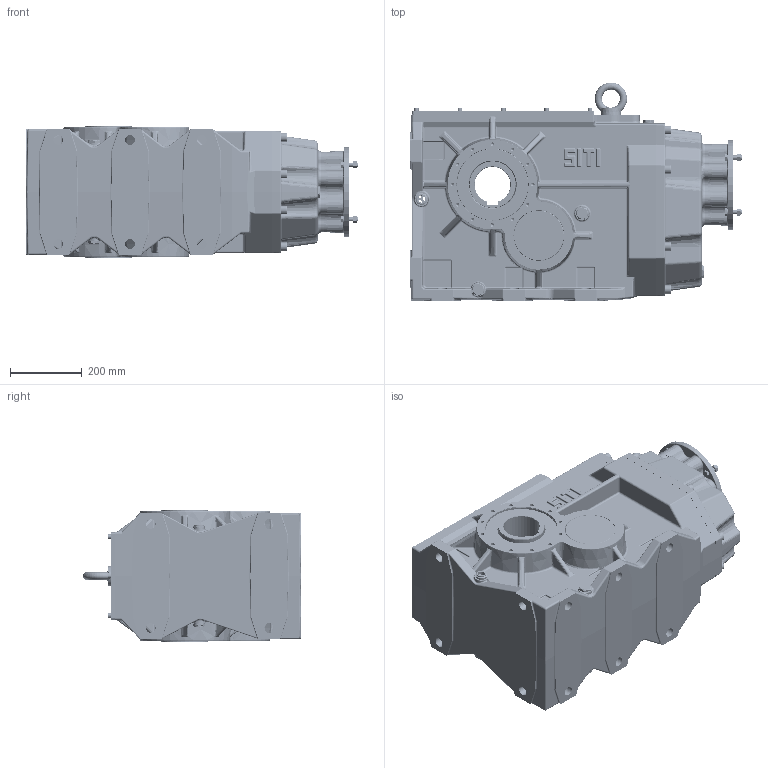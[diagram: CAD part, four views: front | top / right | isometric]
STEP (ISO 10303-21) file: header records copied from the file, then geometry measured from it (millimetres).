
FILE_DESCRIPTION((''),'2;1');
FILE_NAME('O:\Figurini\Figurini BH\3D\180\MBHGC 180 C GR 100-112 B5.stp','2013-05-22T11:45:26',('d.iannaccio'),(''),'Autodesk Inventor 2012','Autodesk Inventor 2012','');
FILE_SCHEMA(('AUTOMOTIVE_DESIGN { 1 0 10303 214 1 1 1 1 }'));
Length unit declared in the file: millimetre
Products named in the file (1): MBHGC_180 C GR 100-112 B5
Bounding box: 925.5 x 609.92 x 370 mm (x, y, z)
Volume: 36792817.8 mm3; surface area: 4375173.2 mm2
Topology: 3 solids, 62 shells, 4149 faces, 9894 edges, 5908 vertices
Faces by surface type: cylinder 1305, plane 1153, bspline 719, torus 447, cone 331, sphere 194
Full cylindrical faces by diameter (mm): 2.4 x1, 6.647 x13, 8 x25, 9 x12, 10 x18, 10.106 x24, 10.5 x2, 12 x24, 13 x20, 13.835 x8, 14 x4, 16 x8, 17 x9, 18 x9, 19.6 x1, 20 x2, 20.5 x8, 20.752 x2, 22 x1, 24 x8, 24.117 x8, 25 x1, 26 x1, 26.5 x2, 27 x10, 31 x7, 31.9 x1, 40 x1, 42 x1, 46 x1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
Entity records: 142355 total; most frequent: CARTESIAN_POINT 49761, DIRECTION 18214, ORIENTED_EDGE 17836, EDGE_CURVE 8918, AXIS2_PLACEMENT_3D 7542, VERTEX_POINT 5621, EDGE_LOOP 5018, STYLED_ITEM 4150
